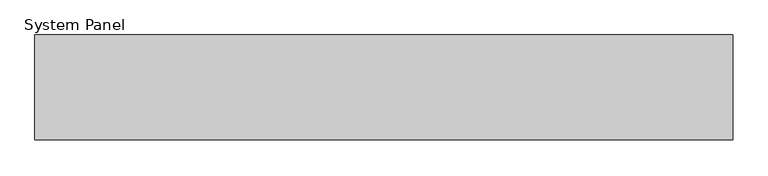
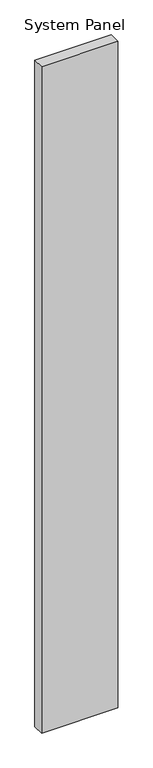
"""IFC4 building model written with IfcOpenShell, lengths in millimetres: plate geometry, System Panel : SolarSpan 150mm Roof - Plain Surfmist."""

from ifc_helpers import new_model, si_unit, origin, origin_with_axes, place, context, project, spatial, polyline, outline, extrude, source, transform, mapped, element, save


def system_panel_8508c99d(model_context):
    return source(origin(), model_context, "Body", "SweptSolid", [
        extrude(outline(polyline([(500.0, -150.0), (-500.0, -150.0), (-500.0, 0.0), (500.0, 0.0), (500.0, -150.0)])), origin_with_axes(), (0.0, 0.0, 1.0), 9240.3821682),
    ])


if __name__ == "__main__":
    model = new_model("IFC4")
    model_context = context("Model", 3, world=origin())
    ifc_project = project(units=[si_unit("LENGTHUNIT", "METRE", prefix="MILLI")], contexts=[model_context])
    site = spatial("IfcSite", under=ifc_project)
    building = spatial("IfcBuilding", under=site)
    placement = place(None, origin())
    system_panel_shape = system_panel_8508c99d(model_context)
    element("IfcPlate", 1, ObjectType="System Panel : SolarSpan 150mm Roof - Plain Surfmist", at=placement, inside=building, context=model_context, shape_type="MappedRepresentation", body=[
        mapped(system_panel_shape, transform((0.0, 0.0, 0.0), x_axis=(1.0, 0.0, 0.0), y_axis=(0.0, 1.0, 0.0), z_axis=(0.0, 0.0, 1.0))),
    ])
    save(model, "model.ifc")
